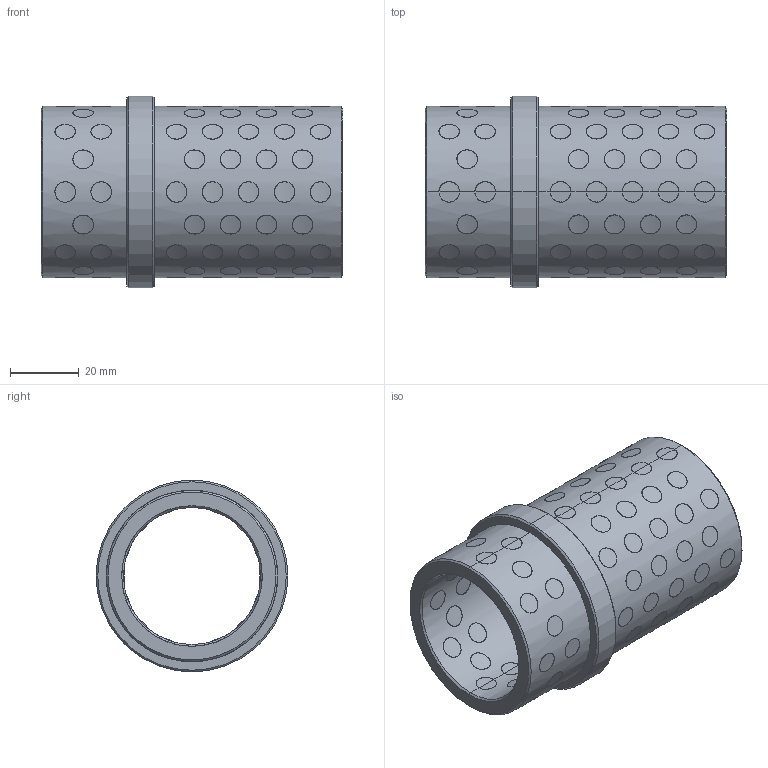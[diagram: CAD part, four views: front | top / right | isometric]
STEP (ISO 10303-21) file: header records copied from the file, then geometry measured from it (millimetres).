
FILE_DESCRIPTION(('CATIA V5 STEP Exchange'),'2;1');
FILE_NAME('C:\Users\Utente\Desktop\3D files G402\G4024063.stp','2020-04-22T08:44:38+00:00',('none'),('none'),'CATIA Version 5 Release 20 GA (IN-10)','CATIA V5 STEP AP203','none');
FILE_SCHEMA(('CONFIG_CONTROL_DESIGN'));
Products named in the file (1): G4024063
Bounding box: 88 x 56 x 56 mm (x, y, z)
Surface area: 45186.7 mm2 (no closed solid volume)
Topology: 0 solids, 628 shells, 628 faces, 2736 edges, 2736 vertices
Faces by surface type: cylinder 612, revolution 12, plane 4
Entity records: 68419 total; most frequent: CARTESIAN_POINT 49506, ORIENTED_EDGE 2736, EDGE_CURVE 2736, VERTEX_POINT 2736, DIRECTION 2211, B_SPLINE_CURVE_WITH_KNOTS 1781, VECTOR 920, LINE 920
